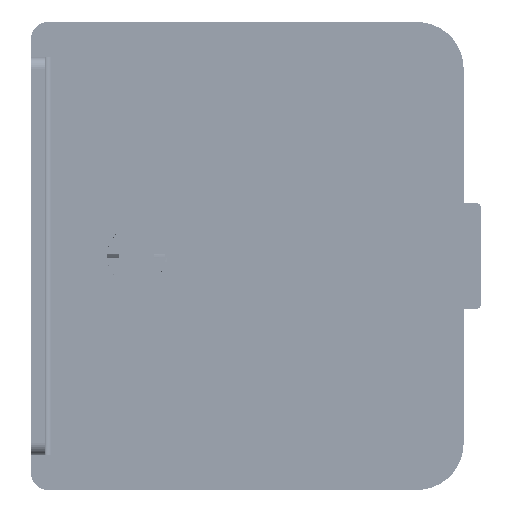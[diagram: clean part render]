
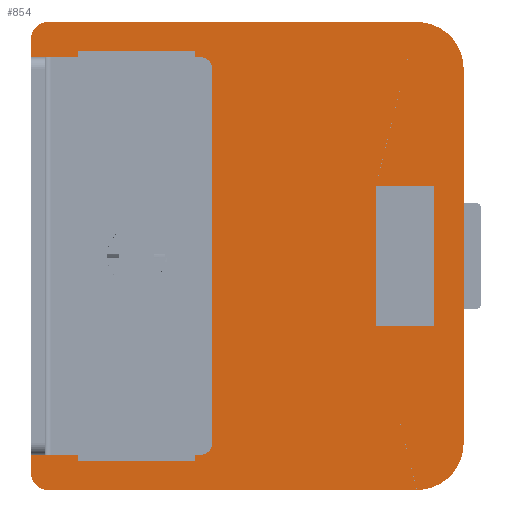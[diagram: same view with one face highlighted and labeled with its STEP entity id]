
A CAD part, front view. The second image highlights one B-rep face of the part: STEP entity #854.
In plain terms, the highlighted planar face has unit normal (0, -1, 0).
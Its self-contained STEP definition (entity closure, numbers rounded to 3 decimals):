
#854=ADVANCED_FACE('',(#98612,#98614,#98616),#98618,.T.);
#98612=FACE_BOUND('',#98613,.T.);
#98613=EDGE_LOOP('',(#176047,#176048,#176049,#176050,#176051,#176052,#176053,#176054));
#98614=FACE_BOUND('',#98615,.T.);
#98615=EDGE_LOOP('',(#176055,#176056,#176057,#176058,#176059,#176060,#176061,#176062,
#176063,#176064,#176065,#176066,#176067,#176068));
#98616=FACE_BOUND('',#98617,.T.);
#98617=EDGE_LOOP('',(#176069,#176070,#176071,#176072));
#98618=PLANE('',#98619);
#98619=AXIS2_PLACEMENT_3D('',#98620,#98621,#98622);
#98620=CARTESIAN_POINT('',(0.,-144.5,37.));
#98621=DIRECTION('',(0.,-1.,0.));
#98622=DIRECTION('',(0.,0.,-1.));
#176047=ORIENTED_EDGE('',*,*,#237970,.T.);
#176048=ORIENTED_EDGE('',*,*,#237971,.T.);
#176049=ORIENTED_EDGE('',*,*,#237625,.T.);
#176050=ORIENTED_EDGE('',*,*,#237969,.T.);
#176051=ORIENTED_EDGE('',*,*,#237972,.T.);
#176052=ORIENTED_EDGE('',*,*,#237973,.T.);
#176053=ORIENTED_EDGE('',*,*,#237974,.T.);
#176054=ORIENTED_EDGE('',*,*,#237975,.T.);
#176055=ORIENTED_EDGE('',*,*,#237976,.F.);
#176056=ORIENTED_EDGE('',*,*,#237977,.F.);
#176057=ORIENTED_EDGE('',*,*,#237978,.T.);
#176058=ORIENTED_EDGE('',*,*,#237979,.T.);
#176059=ORIENTED_EDGE('',*,*,#237980,.T.);
#176060=ORIENTED_EDGE('',*,*,#237981,.F.);
#176061=ORIENTED_EDGE('',*,*,#237982,.F.);
#176062=ORIENTED_EDGE('',*,*,#237983,.F.);
#176063=ORIENTED_EDGE('',*,*,#237984,.T.);
#176064=ORIENTED_EDGE('',*,*,#237985,.T.);
#176065=ORIENTED_EDGE('',*,*,#237986,.T.);
#176066=ORIENTED_EDGE('',*,*,#237987,.F.);
#176067=ORIENTED_EDGE('',*,*,#237988,.F.);
#176068=ORIENTED_EDGE('',*,*,#237989,.F.);
#176069=ORIENTED_EDGE('',*,*,#237990,.T.);
#176070=ORIENTED_EDGE('',*,*,#237991,.T.);
#176071=ORIENTED_EDGE('',*,*,#237992,.T.);
#176072=ORIENTED_EDGE('',*,*,#237993,.T.);
#237625=EDGE_CURVE('',#268802,#268800,#268803,.T.);
#237969=EDGE_CURVE('',#268800,#269431,#269433,.T.);
#237970=EDGE_CURVE('',#269434,#269435,#269436,.T.);
#237971=EDGE_CURVE('',#269435,#268802,#269437,.T.);
#237972=EDGE_CURVE('',#269431,#269438,#269439,.T.);
#237973=EDGE_CURVE('',#269438,#269440,#269441,.T.);
#237974=EDGE_CURVE('',#269440,#269442,#269443,.T.);
#237975=EDGE_CURVE('',#269442,#269434,#269444,.T.);
#237976=EDGE_CURVE('',#269445,#269446,#269447,.F.);
#237977=EDGE_CURVE('',#269448,#269445,#269449,.T.);
#237978=EDGE_CURVE('',#269448,#269450,#269451,.F.);
#237979=EDGE_CURVE('',#269450,#269452,#269453,.F.);
#237980=EDGE_CURVE('',#269452,#269454,#269455,.F.);
#237981=EDGE_CURVE('',#269456,#269454,#269457,.T.);
#237982=EDGE_CURVE('',#269458,#269456,#269459,.F.);
#237983=EDGE_CURVE('',#269460,#269458,#269461,.T.);
#237984=EDGE_CURVE('',#269460,#269462,#269463,.F.);
#237985=EDGE_CURVE('',#269462,#269464,#269465,.F.);
#237986=EDGE_CURVE('',#269464,#269466,#269467,.F.);
#237987=EDGE_CURVE('',#269468,#269466,#269469,.T.);
#237988=EDGE_CURVE('',#269470,#269468,#269471,.F.);
#237989=EDGE_CURVE('',#269446,#269470,#269472,.T.);
#237990=EDGE_CURVE('',#269473,#269474,#269475,.F.);
#237991=EDGE_CURVE('',#269474,#269476,#269477,.F.);
#237992=EDGE_CURVE('',#269476,#269478,#269479,.F.);
#237993=EDGE_CURVE('',#269478,#269473,#269480,.F.);
#268800=VERTEX_POINT('',#320875);
#268802=VERTEX_POINT('',#320879);
#268803=LINE('',#320880,#320881);
#269431=VERTEX_POINT('',#322227);
#269433=CIRCLE('',#322231,4.);
#269434=VERTEX_POINT('',#322235);
#269435=VERTEX_POINT('',#322236);
#269436=LINE('',#322237,#322238);
#269437=CIRCLE('',#322240,1.5);
#269438=VERTEX_POINT('',#322244);
#269439=LINE('',#322245,#322246);
#269440=VERTEX_POINT('',#322248);
#269441=CIRCLE('',#322249,4.);
#269442=VERTEX_POINT('',#322253);
#269443=LINE('',#322254,#322255);
#269444=CIRCLE('',#322257,1.5);
#269445=VERTEX_POINT('',#322261);
#269446=VERTEX_POINT('',#322262);
#269447=CIRCLE('',#322263,1.);
#269448=VERTEX_POINT('',#322267);
#269449=LINE('',#322268,#322269);
#269450=VERTEX_POINT('',#322271);
#269451=LINE('',#322272,#322273);
#269452=VERTEX_POINT('',#322275);
#269453=LINE('',#322276,#322277);
#269454=VERTEX_POINT('',#322279);
#269455=LINE('',#322280,#322281);
#269456=VERTEX_POINT('',#322283);
#269457=LINE('',#322284,#322285);
#269458=VERTEX_POINT('',#322287);
#269459=LINE('',#322288,#322289);
#269460=VERTEX_POINT('',#322291);
#269461=LINE('',#322292,#322293);
#269462=VERTEX_POINT('',#322295);
#269463=LINE('',#322296,#322297);
#269464=VERTEX_POINT('',#322299);
#269465=LINE('',#322300,#322301);
#269466=VERTEX_POINT('',#322303);
#269467=LINE('',#322304,#322305);
#269468=VERTEX_POINT('',#322307);
#269469=LINE('',#322308,#322309);
#269470=VERTEX_POINT('',#322311);
#269471=CIRCLE('',#322312,1.);
#269472=LINE('',#322316,#322317);
#269473=VERTEX_POINT('',#322319);
#269474=VERTEX_POINT('',#322320);
#269475=LINE('',#322321,#322322);
#269476=VERTEX_POINT('',#322324);
#269477=LINE('',#322325,#322326);
#269478=VERTEX_POINT('',#322328);
#269479=LINE('',#322329,#322330);
#269480=LINE('',#322332,#322333);
#320875=CARTESIAN_POINT('',(33.,-144.5,0.));
#320879=CARTESIAN_POINT('',(1.5,-144.5,0.));
#320880=CARTESIAN_POINT('',(1.5,-144.5,0.));
#320881=VECTOR('',#320882,1.);
#320882=DIRECTION('',(1.,0.,0.));
#322227=CARTESIAN_POINT('',(37.,-144.5,4.));
#322231=AXIS2_PLACEMENT_3D('',#322232,#322233,#322234);
#322232=CARTESIAN_POINT('',(33.,-144.5,4.));
#322233=DIRECTION('',(0.,-1.,0.));
#322234=DIRECTION('',(0.,0.,-1.));
#322235=CARTESIAN_POINT('',(0.,-144.5,38.5));
#322236=CARTESIAN_POINT('',(0.,-144.5,1.5));
#322237=CARTESIAN_POINT('',(0.,-144.5,38.5));
#322238=VECTOR('',#322239,1.);
#322239=DIRECTION('',(0.,0.,-1.));
#322240=AXIS2_PLACEMENT_3D('',#322241,#322242,#322243);
#322241=CARTESIAN_POINT('',(1.5,-144.5,1.5));
#322242=DIRECTION('',(0.,-1.,0.));
#322243=DIRECTION('',(-1.,0.,0.));
#322244=CARTESIAN_POINT('',(37.,-144.5,36.));
#322245=CARTESIAN_POINT('',(37.,-144.5,4.));
#322246=VECTOR('',#322247,1.);
#322247=DIRECTION('',(0.,0.,1.));
#322248=CARTESIAN_POINT('',(33.,-144.5,40.));
#322249=AXIS2_PLACEMENT_3D('',#322250,#322251,#322252);
#322250=CARTESIAN_POINT('',(33.,-144.5,36.));
#322251=DIRECTION('',(0.,-1.,0.));
#322252=DIRECTION('',(1.,0.,0.));
#322253=CARTESIAN_POINT('',(1.5,-144.5,40.));
#322254=CARTESIAN_POINT('',(33.,-144.5,40.));
#322255=VECTOR('',#322256,1.);
#322256=DIRECTION('',(-1.,0.,0.));
#322257=AXIS2_PLACEMENT_3D('',#322258,#322259,#322260);
#322258=CARTESIAN_POINT('',(1.5,-144.5,38.5));
#322259=DIRECTION('',(0.,-1.,0.));
#322260=DIRECTION('',(0.,0.,1.));
#322261=CARTESIAN_POINT('',(14.5,-144.5,3.));
#322262=CARTESIAN_POINT('',(15.5,-144.5,4.));
#322263=AXIS2_PLACEMENT_3D('',#322264,#322265,#322266);
#322264=CARTESIAN_POINT('',(14.5,-144.5,4.));
#322265=DIRECTION('',(0.,1.,0.));
#322266=DIRECTION('',(1.,0.,0.));
#322267=CARTESIAN_POINT('',(14.,-144.5,3.));
#322268=CARTESIAN_POINT('',(14.,-144.5,3.));
#322269=VECTOR('',#322270,1.);
#322270=DIRECTION('',(1.,0.,0.));
#322271=CARTESIAN_POINT('',(14.,-144.5,2.5));
#322272=CARTESIAN_POINT('',(14.,-144.5,2.5));
#322273=VECTOR('',#322274,1.);
#322274=DIRECTION('',(0.,0.,1.));
#322275=CARTESIAN_POINT('',(4.,-144.5,2.5));
#322276=CARTESIAN_POINT('',(4.,-144.5,2.5));
#322277=VECTOR('',#322278,1.);
#322278=DIRECTION('',(1.,0.,0.));
#322279=CARTESIAN_POINT('',(4.,-144.5,3.));
#322280=CARTESIAN_POINT('',(4.,-144.5,3.));
#322281=VECTOR('',#322282,1.);
#322282=DIRECTION('',(0.,0.,-1.));
#322283=CARTESIAN_POINT('',(1.7,-144.5,3.));
#322284=CARTESIAN_POINT('',(1.7,-144.5,3.));
#322285=VECTOR('',#322286,1.);
#322286=DIRECTION('',(1.,0.,0.));
#322287=CARTESIAN_POINT('',(1.7,-144.5,37.));
#322288=CARTESIAN_POINT('',(1.7,-144.5,3.));
#322289=VECTOR('',#322290,1.);
#322290=DIRECTION('',(0.,0.,1.));
#322291=CARTESIAN_POINT('',(4.,-144.5,37.));
#322292=CARTESIAN_POINT('',(4.,-144.5,37.));
#322293=VECTOR('',#322294,1.);
#322294=DIRECTION('',(-1.,0.,0.));
#322295=CARTESIAN_POINT('',(4.,-144.5,37.5));
#322296=CARTESIAN_POINT('',(4.,-144.5,37.5));
#322297=VECTOR('',#322298,1.);
#322298=DIRECTION('',(0.,0.,-1.));
#322299=CARTESIAN_POINT('',(14.,-144.5,37.5));
#322300=CARTESIAN_POINT('',(14.,-144.5,37.5));
#322301=VECTOR('',#322302,1.);
#322302=DIRECTION('',(-1.,0.,0.));
#322303=CARTESIAN_POINT('',(14.,-144.5,37.));
#322304=CARTESIAN_POINT('',(14.,-144.5,37.));
#322305=VECTOR('',#322306,1.);
#322306=DIRECTION('',(0.,0.,1.));
#322307=CARTESIAN_POINT('',(14.5,-144.5,37.));
#322308=CARTESIAN_POINT('',(14.5,-144.5,37.));
#322309=VECTOR('',#322310,1.);
#322310=DIRECTION('',(-1.,0.,0.));
#322311=CARTESIAN_POINT('',(15.5,-144.5,36.));
#322312=AXIS2_PLACEMENT_3D('',#322313,#322314,#322315);
#322313=CARTESIAN_POINT('',(14.5,-144.5,36.));
#322314=DIRECTION('',(0.,1.,0.));
#322315=DIRECTION('',(0.,0.,1.));
#322316=CARTESIAN_POINT('',(15.5,-144.5,4.));
#322317=VECTOR('',#322318,1.);
#322318=DIRECTION('',(0.,0.,1.));
#322319=CARTESIAN_POINT('',(34.5,-144.5,14.));
#322320=CARTESIAN_POINT('',(29.5,-144.5,14.));
#322321=CARTESIAN_POINT('',(29.5,-144.5,14.));
#322322=VECTOR('',#322323,1.);
#322323=DIRECTION('',(1.,0.,0.));
#322324=CARTESIAN_POINT('',(29.5,-144.5,26.));
#322325=CARTESIAN_POINT('',(29.5,-144.5,26.));
#322326=VECTOR('',#322327,1.);
#322327=DIRECTION('',(0.,0.,-1.));
#322328=CARTESIAN_POINT('',(34.5,-144.5,26.));
#322329=CARTESIAN_POINT('',(34.5,-144.5,26.));
#322330=VECTOR('',#322331,1.);
#322331=DIRECTION('',(-1.,0.,0.));
#322332=CARTESIAN_POINT('',(34.5,-144.5,14.));
#322333=VECTOR('',#322334,1.);
#322334=DIRECTION('',(0.,0.,1.));
